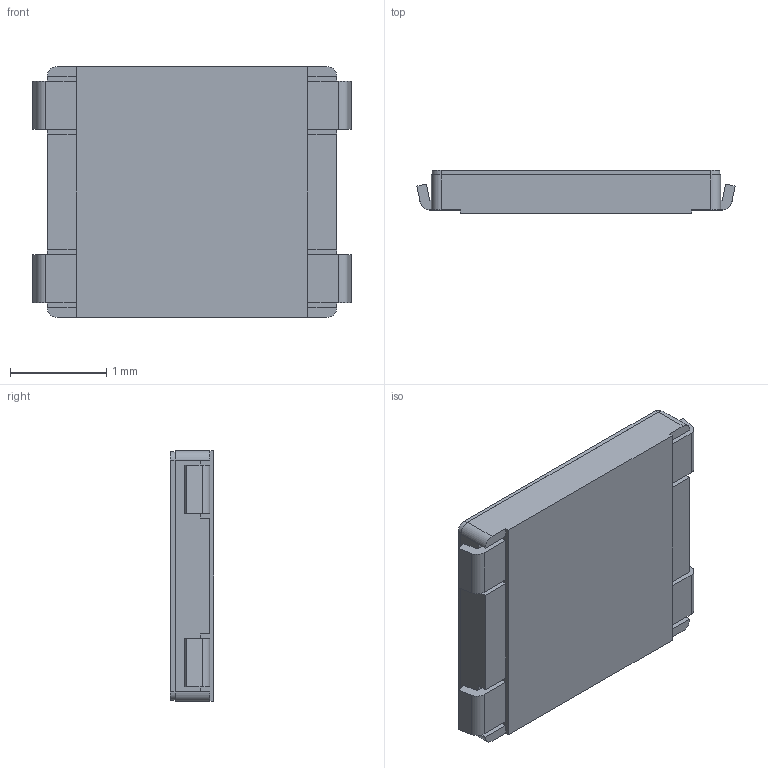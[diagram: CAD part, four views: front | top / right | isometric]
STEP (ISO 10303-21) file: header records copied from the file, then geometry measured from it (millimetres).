
FILE_DESCRIPTION((''),'2;1');
FILE_NAME('JQH2630F-B0061-01EG-1-103_ASM','2026-05-20T17:54:53',('Admin'),(''),'CREO PARAMETRIC BY PTC INC, 2019224','CREO PARAMETRIC BY PTC INC, 2019224','');
FILE_SCHEMA(('AUTOMOTIVE_DESIGN { 1 0 10303 214 1 1 1 1 }'));
Length unit declared in the file: millimetre
Products named in the file (2): JQH2630F-B0061-01EG-1-103_04; JQH2630F-B0061-01EG-1-103_ASM
Assembly tree (1 placements, depth 2):
  JQH2630F-B0061-01EG-1-103_ASM
    JQH2630F-B0061-01EG-1-103_04
Bounding box: 3.3 x 0.45 x 2.6 mm (x, y, z)
Volume: 3.5 mm3; surface area: 22.2 mm2
Topology: 1 solids, 1 shells, 75 faces, 204 edges, 132 vertices
Faces by surface type: plane 63, cylinder 12
Entity records: 3557 total; most frequent: CARTESIAN_POINT 419, ORIENTED_EDGE 408, DIRECTION 386, PRESENTATION_STYLE_ASSIGNMENT 248, STYLED_ITEM 207, CURVE_STYLE 206, EDGE_CURVE 204, VECTOR 180
